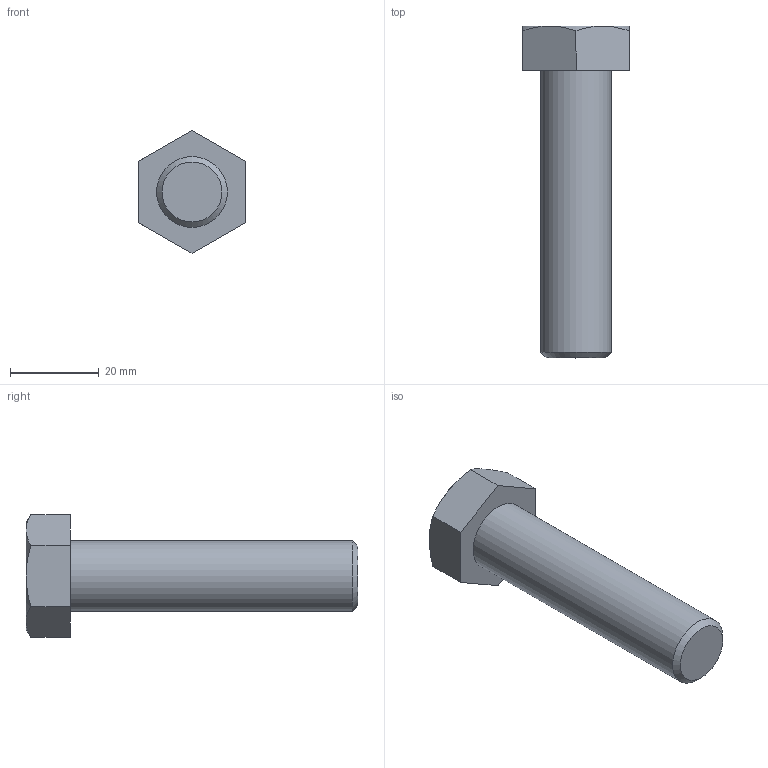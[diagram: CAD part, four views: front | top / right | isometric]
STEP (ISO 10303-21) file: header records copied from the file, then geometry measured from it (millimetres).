
FILE_DESCRIPTION(/* description */ (''),/* implementation_level */ '2;1');
FILE_NAME(/* name */ 'C:\Users\unitec\Documents\Inventor\各種小物\JIS\JIS B 1180 六角ボルト 等級C\hbc16\M16x65.stp',/* time_stamp */ '2015-02-13T14:52:20+09:00',/* author */ ('unitec'),/* organization */ (''),/* preprocessor_version */ 'ST-DEVELOPER v15.2',/* originating_system */ 'Autodesk Inventor 2014',/* authorisation */ '');
FILE_SCHEMA (('AUTOMOTIVE_DESIGN { 1 0 10303 214 3 1 1 }'));
Length unit declared in the file: millimetre
Products named in the file (1): M16x65
Bounding box: 24 x 75 x 27.71 mm (x, y, z)
Volume: 18006.3 mm3; surface area: 5034.7 mm2
Topology: 1 solids, 1 shells, 17 faces, 35 edges, 21 vertices
Faces by surface type: plane 9, cone 7, cylinder 1
Full cylindrical faces by diameter (mm): 16 x1
Entity records: 441 total; most frequent: CARTESIAN_POINT 96, ORIENTED_EDGE 66, DIRECTION 66, EDGE_CURVE 33, AXIS2_PLACEMENT_3D 27, VERTEX_POINT 21, EDGE_LOOP 20, ADVANCED_FACE 17
